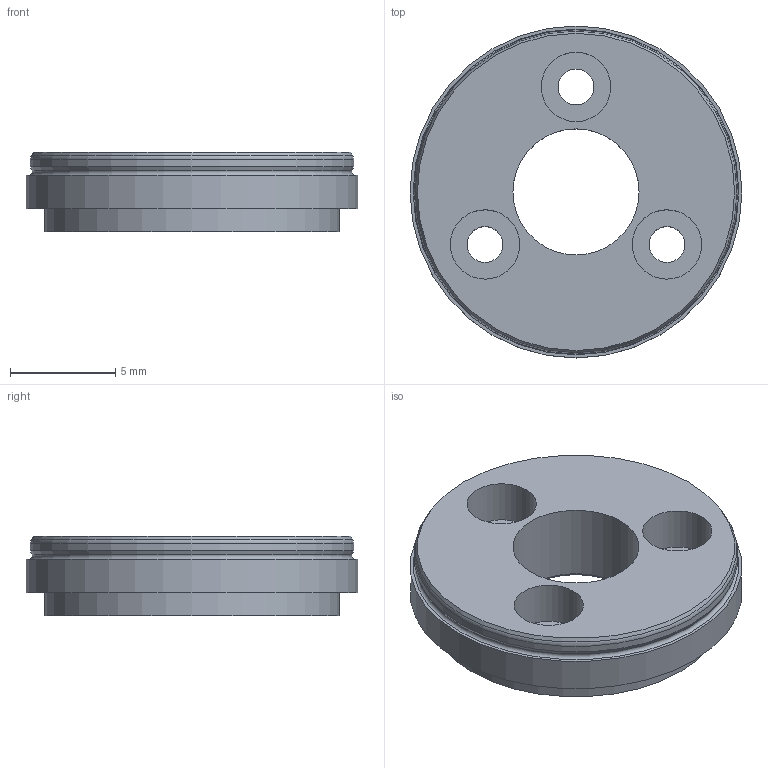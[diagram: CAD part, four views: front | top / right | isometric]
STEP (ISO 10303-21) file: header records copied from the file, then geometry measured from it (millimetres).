
FILE_DESCRIPTION(/* description */ (''),/* implementation_level */ '2;1');
FILE_NAME(/* name */ '16GPT_flange_c_416.5145.01.stp',/* time_stamp */ '2024-11-12T10:44:33+01:00',/* author */ ('DR. FRITZ FAULHABER GmbH & Co. KG'),/* organization */ ('DR. FRITZ FAULHABER GmbH & Co. KG'),/* preprocessor_version */ 'ST-DEVELOPER v19.3',/* originating_system */ 'SIEMENS PLM Software NX2212.4000',/* authorisation */ '');
FILE_SCHEMA (('AUTOMOTIVE_DESIGN { 1 0 10303 214 3 1 1 1 }'));
Length unit declared in the file: millimetre
Products named in the file (1): D_objects
Bounding box: 15.8 x 15.8 x 3.8 mm (x, y, z)
Volume: 512.8 mm3; surface area: 663.3 mm2
Topology: 1 solids, 1 shells, 22 faces, 45 edges, 30 vertices
Faces by surface type: cylinder 10, plane 7, cone 3, torus 2
Full cylindrical faces by diameter (mm): 1.7 x3, 3.3 x3, 6 x1, 14 x1, 15.4 x1, 15.8 x1
Entity records: 522 total; most frequent: DIRECTION 96, CARTESIAN_POINT 73, FACE_BOUND 50, EDGE_LOOP 50, ORIENTED_EDGE 50, AXIS2_PLACEMENT_3D 48, VERTEX_POINT 25, EDGE_CURVE 25
